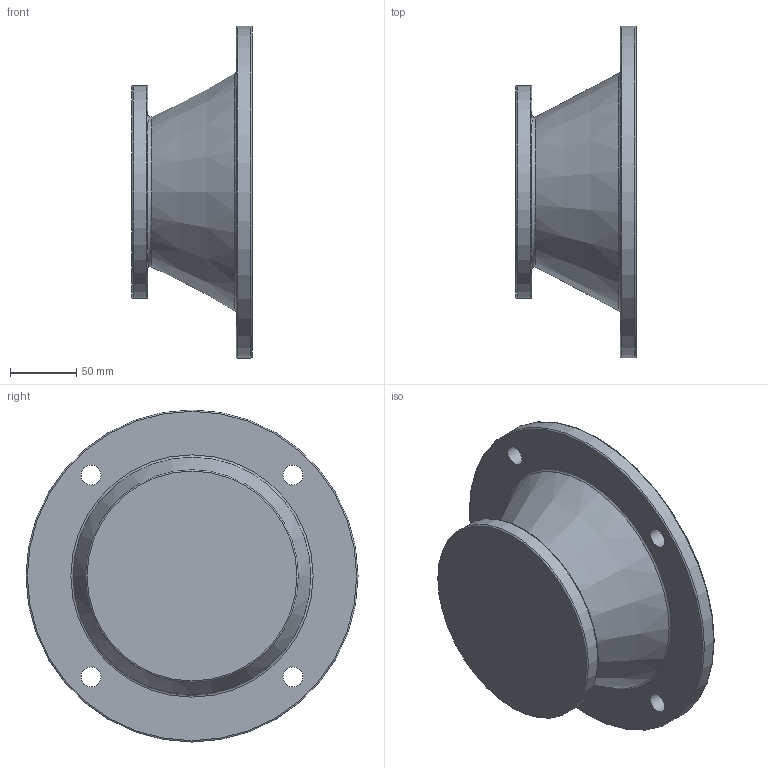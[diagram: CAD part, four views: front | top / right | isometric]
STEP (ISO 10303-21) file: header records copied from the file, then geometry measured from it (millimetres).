
FILE_DESCRIPTION((''),'2;1');
FILE_NAME('D:\PAWEŁ\ZLECENIA\DualSystem\001 Modele\DKAB60_\DK_60_STEP\100-112_B5_L90,5.stp','2011-11-25T00:13:23',('Pawe'),(''),'Autodesk Inventor 2009','Autodesk Inventor 2009','');
FILE_SCHEMA(('AUTOMOTIVE_DESIGN { 1 0 10303 214 1 1 1 1 }'));
Length unit declared in the file: millimetre
Products named in the file (1): 100-112_B5_L90,5
Bounding box: 90.5 x 250 x 250 mm (x, y, z)
Volume: 805081.4 mm3; surface area: 187450.7 mm2
Topology: 1 solids, 1 shells, 29 faces, 56 edges, 35 vertices
Faces by surface type: plane 11, bspline 6, cylinder 5, torus 5, cone 2
Full cylindrical faces by diameter (mm): 48 x1, 160 x1, 180 x1, 250 x1
Entity records: 875 total; most frequent: CARTESIAN_POINT 278, DIRECTION 116, ORIENTED_EDGE 78, EDGE_LOOP 60, AXIS2_PLACEMENT_3D 53, EDGE_CURVE 39, VERTEX_POINT 35, FACE_BOUND 31
